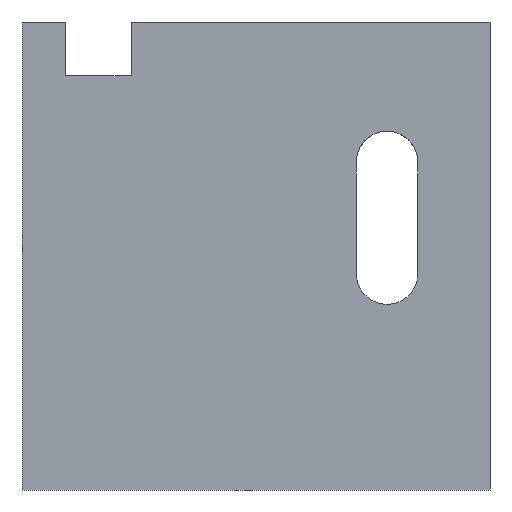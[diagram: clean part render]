
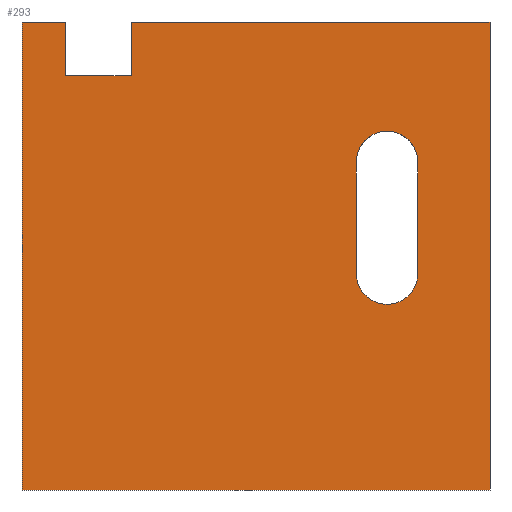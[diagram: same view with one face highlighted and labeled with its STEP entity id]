
A CAD part, front view. The second image highlights one B-rep face of the part: STEP entity #293.
In plain terms, the highlighted planar face has unit normal (0, -1, 0).
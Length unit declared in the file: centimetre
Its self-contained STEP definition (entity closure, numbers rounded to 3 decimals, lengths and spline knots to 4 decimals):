
#16 = CARTESIAN_POINT ( 'NONE',  ( 0., 0., 0. ) ) ;
#20 = DIRECTION ( 'NONE',  ( 0., 0., 1. ) ) ;
#25 = VECTOR ( 'NONE', #184, 100. ) ;
#29 = LINE ( 'NONE', #228, #35 ) ;
#35 = VECTOR ( 'NONE', #189, 100. ) ;
#36 = CARTESIAN_POINT ( 'NONE',  ( 0., 0., 0. ) ) ;
#42 = CARTESIAN_POINT ( 'NONE',  ( 233.3476, 0., 1000. ) ) ;
#44 = ORIENTED_EDGE ( 'NONE', *, *, #465, .F. ) ;
#51 = CARTESIAN_POINT ( 'NONE',  ( 92.7432, 0., 885.2826 ) ) ;
#52 = DIRECTION ( 'NONE',  ( 0., 0., 1. ) ) ;
#53 = ORIENTED_EDGE ( 'NONE', *, *, #661, .F. ) ;
#59 = CARTESIAN_POINT ( 'NONE',  ( 0., 0., 1000. ) ) ;
#78 = AXIS2_PLACEMENT_3D ( 'NONE', #658, #494, #238 ) ;
#85 = EDGE_CURVE ( 'NONE', #313, #405, #543, .T. ) ;
#86 = LINE ( 'NONE', #236, #25 ) ;
#90 = CARTESIAN_POINT ( 'NONE',  ( 92.7432, 0., 1000. ) ) ;
#98 = VECTOR ( 'NONE', #579, 100. ) ;
#107 = DIRECTION ( 'NONE',  ( 1., 0., 0. ) ) ;
#108 = EDGE_CURVE ( 'NONE', #168, #219, #29, .T. ) ;
#113 = FACE_OUTER_BOUND ( 'NONE', #487, .T. ) ;
#116 = EDGE_CURVE ( 'NONE', #616, #313, #522, .T. ) ;
#119 = DIRECTION ( 'NONE',  ( -1., 0., 0. ) ) ;
#121 = VERTEX_POINT ( 'NONE', #36 ) ;
#122 = ORIENTED_EDGE ( 'NONE', *, *, #638, .F. ) ;
#123 = CARTESIAN_POINT ( 'NONE',  ( 1000., 0., 1000. ) ) ;
#138 = CARTESIAN_POINT ( 'NONE',  ( 714.3857, 0., 462.3314 ) ) ;
#168 = VERTEX_POINT ( 'NONE', #398 ) ;
#174 = CARTESIAN_POINT ( 'NONE',  ( 92.7432, 0., 885.2826 ) ) ;
#180 = DIRECTION ( 'NONE',  ( 0., 0., 1. ) ) ;
#184 = DIRECTION ( 'NONE',  ( 0., 0., -1. ) ) ;
#189 = DIRECTION ( 'NONE',  ( 0., 0., -1. ) ) ;
#206 = FACE_BOUND ( 'NONE', #409, .T. ) ;
#212 = VERTEX_POINT ( 'NONE', #90 ) ;
#213 = DIRECTION ( 'NONE',  ( 0., 1., 0. ) ) ;
#216 = LINE ( 'NONE', #174, #641 ) ;
#219 = VERTEX_POINT ( 'NONE', #138 ) ;
#224 = EDGE_CURVE ( 'NONE', #667, #121, #86, .T. ) ;
#225 = DIRECTION ( 'NONE',  ( 0., 0., -1. ) ) ;
#228 = CARTESIAN_POINT ( 'NONE',  ( 714.3857, 0., 462.3314 ) ) ;
#236 = CARTESIAN_POINT ( 'NONE',  ( 0., 0., 1000. ) ) ;
#238 = DIRECTION ( 'NONE',  ( 0., 0., 1. ) ) ;
#248 = CARTESIAN_POINT ( 'NONE',  ( 845.7586, 0., 462.3314 ) ) ;
#266 = CARTESIAN_POINT ( 'NONE',  ( 780.0721, 0., 462.3314 ) ) ;
#283 = CARTESIAN_POINT ( 'NONE',  ( 233.3476, 0., 885.2826 ) ) ;
#289 = ORIENTED_EDGE ( 'NONE', *, *, #496, .T. ) ;
#293 = ADVANCED_FACE ( 'NONE', ( #206, #113 ), #617, .F. ) ;
#308 = ORIENTED_EDGE ( 'NONE', *, *, #528, .T. ) ;
#313 = VERTEX_POINT ( 'NONE', #248 ) ;
#315 = LINE ( 'NONE', #16, #98 ) ;
#318 = LINE ( 'NONE', #123, #388 ) ;
#326 = LINE ( 'NONE', #428, #554 ) ;
#336 = CARTESIAN_POINT ( 'NONE',  ( 780.0721, 0., 396.6449 ) ) ;
#344 = EDGE_CURVE ( 'NONE', #667, #212, #513, .T. ) ;
#346 = CIRCLE ( 'NONE', #437, 65.6865 ) ;
#352 = VERTEX_POINT ( 'NONE', #51 ) ;
#358 = CARTESIAN_POINT ( 'NONE',  ( 0., 0., 1000. ) ) ;
#359 = AXIS2_PLACEMENT_3D ( 'NONE', #358, #213, #52 ) ;
#379 = ORIENTED_EDGE ( 'NONE', *, *, #542, .T. ) ;
#388 = VECTOR ( 'NONE', #225, 100. ) ;
#398 = CARTESIAN_POINT ( 'NONE',  ( 714.3857, 0., 700.9931 ) ) ;
#405 = VERTEX_POINT ( 'NONE', #474 ) ;
#409 = EDGE_LOOP ( 'NONE', ( #415, #660, #507, #635, #53 ) ) ;
#415 = ORIENTED_EDGE ( 'NONE', *, *, #85, .F. ) ;
#419 = ORIENTED_EDGE ( 'NONE', *, *, #224, .T. ) ;
#420 = VERTEX_POINT ( 'NONE', #569 ) ;
#426 = VERTEX_POINT ( 'NONE', #668 ) ;
#428 = CARTESIAN_POINT ( 'NONE',  ( 92.7432, 0., 885.2826 ) ) ;
#437 = AXIS2_PLACEMENT_3D ( 'NONE', #266, #484, #20 ) ;
#439 = VECTOR ( 'NONE', #495, 100. ) ;
#443 = CARTESIAN_POINT ( 'NONE',  ( 0., 0., 1000. ) ) ;
#446 = DIRECTION ( 'NONE',  ( 0., 0., 1. ) ) ;
#447 = VECTOR ( 'NONE', #598, 100. ) ;
#450 = LINE ( 'NONE', #283, #447 ) ;
#465 = EDGE_CURVE ( 'NONE', #529, #420, #318, .T. ) ;
#474 = CARTESIAN_POINT ( 'NONE',  ( 845.7586, 0., 700.9931 ) ) ;
#484 = DIRECTION ( 'NONE',  ( 0., -1., 0. ) ) ;
#487 = EDGE_LOOP ( 'NONE', ( #379, #308, #520, #419, #289, #44, #122, #608 ) ) ;
#494 = DIRECTION ( 'NONE',  ( 0., -1., 0. ) ) ;
#495 = DIRECTION ( 'NONE',  ( 1., 0., 0. ) ) ;
#496 = EDGE_CURVE ( 'NONE', #121, #420, #315, .T. ) ;
#498 = CARTESIAN_POINT ( 'NONE',  ( 780.0721, 0., 700.9931 ) ) ;
#507 = ORIENTED_EDGE ( 'NONE', *, *, #557, .F. ) ;
#513 = LINE ( 'NONE', #59, #603 ) ;
#520 = ORIENTED_EDGE ( 'NONE', *, *, #344, .F. ) ;
#522 = CIRCLE ( 'NONE', #78, 65.6865 ) ;
#528 = EDGE_CURVE ( 'NONE', #352, #212, #326, .T. ) ;
#529 = VERTEX_POINT ( 'NONE', #541 ) ;
#536 = AXIS2_PLACEMENT_3D ( 'NONE', #498, #555, #446 ) ;
#541 = CARTESIAN_POINT ( 'NONE',  ( 1000., 0., 1000. ) ) ;
#542 = EDGE_CURVE ( 'NONE', #426, #352, #216, .T. ) ;
#543 = LINE ( 'NONE', #644, #602 ) ;
#554 = VECTOR ( 'NONE', #634, 100. ) ;
#555 = DIRECTION ( 'NONE',  ( 0., -1., 0. ) ) ;
#557 = EDGE_CURVE ( 'NONE', #219, #616, #346, .T. ) ;
#569 = CARTESIAN_POINT ( 'NONE',  ( 1000., 0., 0. ) ) ;
#579 = DIRECTION ( 'NONE',  ( 1., 0., 0. ) ) ;
#580 = EDGE_CURVE ( 'NONE', #619, #426, #450, .T. ) ;
#587 = CIRCLE ( 'NONE', #536, 65.6865 ) ;
#598 = DIRECTION ( 'NONE',  ( 0., 0., -1. ) ) ;
#602 = VECTOR ( 'NONE', #180, 100. ) ;
#603 = VECTOR ( 'NONE', #107, 100. ) ;
#605 = CARTESIAN_POINT ( 'NONE',  ( 0., 0., 1000. ) ) ;
#608 = ORIENTED_EDGE ( 'NONE', *, *, #580, .T. ) ;
#616 = VERTEX_POINT ( 'NONE', #336 ) ;
#617 = PLANE ( 'NONE',  #359 ) ;
#619 = VERTEX_POINT ( 'NONE', #42 ) ;
#634 = DIRECTION ( 'NONE',  ( 0., 0., 1. ) ) ;
#635 = ORIENTED_EDGE ( 'NONE', *, *, #108, .F. ) ;
#638 = EDGE_CURVE ( 'NONE', #619, #529, #657, .T. ) ;
#641 = VECTOR ( 'NONE', #119, 100. ) ;
#644 = CARTESIAN_POINT ( 'NONE',  ( 845.7586, 0., 700.9931 ) ) ;
#657 = LINE ( 'NONE', #443, #439 ) ;
#658 = CARTESIAN_POINT ( 'NONE',  ( 780.0721, 0., 462.3314 ) ) ;
#660 = ORIENTED_EDGE ( 'NONE', *, *, #116, .F. ) ;
#661 = EDGE_CURVE ( 'NONE', #405, #168, #587, .T. ) ;
#667 = VERTEX_POINT ( 'NONE', #605 ) ;
#668 = CARTESIAN_POINT ( 'NONE',  ( 233.3476, 0., 885.2826 ) ) ;
